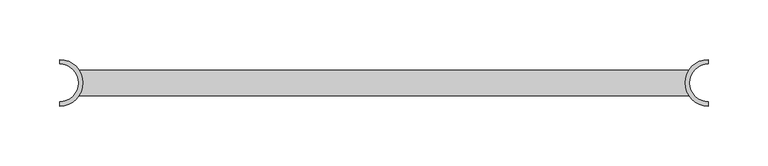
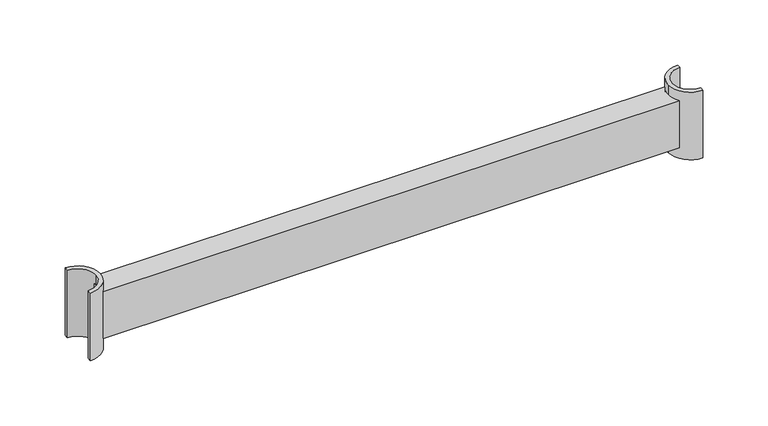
"""IFC4 building model written with IfcOpenShell, lengths in millimetres: furniture geometry."""

from ifc_helpers import new_model, si_unit, point, frame, frame_2d, origin, place, context, project, spatial, polyline, circle_curve, trimmed, segment, composite_curve, outline, extrude, source, transform, mapped, element, save


def furniture_4709d153(model_context):
    return source(origin(), model_context, "Body", "SweptSolid", [
        extrude(outline(polyline([(256.2225383, 10.6660156), (256.2225383, -10.6660156), (-256.0878417, -10.6660156), (-256.0878417, 10.6660156), (256.2225383, 10.6660156)])), frame((0.0, 0.0, 1154.1188846), z_axis=(0.0, 0.0, 1.0), x_axis=(1.0, 0.0, 0.0)), (0.0, 0.0, 1.0), 44.45),
        extrude(outline(composite_curve([segment(trimmed(circle_curve(frame_2d((-271.9628417, 0.0)), 15.875), [point((-256.0878417, 0.0))], [point((-271.9628417, 15.875))], True, "CARTESIAN"), True, "CONTINUOUS"), segment(polyline([(-271.9628417, 15.875), (-271.9628417, 19.54022)]), True, "CONTINUOUS"), segment(trimmed(circle_curve(frame_2d((-271.9628417, 0.0)), 19.54022), [point((-271.9628417, 19.54022))], [point((-252.4226217, 0.0))], False, "CARTESIAN"), True, "CONTINUOUS"), segment(trimmed(circle_curve(frame_2d((-271.9628417, 0.0)), 19.54022), [point((-252.4226217, 0.0))], [point((-271.9628417, -19.54022))], False, "CARTESIAN"), True, "CONTINUOUS"), segment(polyline([(-271.9628417, -19.54022), (-271.9628417, -15.875)]), True, "CONTINUOUS"), segment(trimmed(circle_curve(frame_2d((-271.9628417, 0.0)), 15.875), [point((-271.9628417, -15.875))], [point((-256.0878417, 0.0))], True, "CARTESIAN"), True, "CONTINUOUS")], self_intersect=False)), frame((0.0, 0.0, 1144.5938846), z_axis=(0.0, 0.0, 1.0), x_axis=(1.0, 0.0, 0.0)), (0.0, 0.0, 1.0), 63.5),
        extrude(outline(composite_curve([segment(trimmed(circle_curve(frame_2d((272.0975383, 0.0)), 19.54022), [point((252.5573183, 0.0))], [point((272.0975383, 19.54022))], False, "CARTESIAN"), True, "CONTINUOUS"), segment(polyline([(272.0975383, 19.54022), (272.0975383, 15.875)]), True, "CONTINUOUS"), segment(trimmed(circle_curve(frame_2d((272.0975383, 0.0)), 15.875), [point((272.0975383, 15.875))], [point((256.2225383, 0.0))], True, "CARTESIAN"), True, "CONTINUOUS"), segment(trimmed(circle_curve(frame_2d((272.0975383, 0.0)), 15.875), [point((256.2225383, 0.0))], [point((272.0975383, -15.875))], True, "CARTESIAN"), True, "CONTINUOUS"), segment(polyline([(272.0975383, -15.875), (272.0975383, -19.54022)]), True, "CONTINUOUS"), segment(trimmed(circle_curve(frame_2d((272.0975383, 0.0)), 19.54022), [point((272.0975383, -19.54022))], [point((252.5573183, 0.0))], False, "CARTESIAN"), True, "CONTINUOUS")], self_intersect=False)), frame((0.0, 0.0, 1144.5938846), z_axis=(0.0, 0.0, 1.0), x_axis=(1.0, 0.0, 0.0)), (0.0, 0.0, 1.0), 63.5),
    ])


if __name__ == "__main__":
    model = new_model("IFC4")
    model_context = context("Model", 3, world=origin())
    ifc_project = project(units=[si_unit("LENGTHUNIT", "METRE", prefix="MILLI")], contexts=[model_context])
    site = spatial("IfcSite", under=ifc_project)
    building = spatial("IfcBuilding", under=site)
    placement = place(None, origin())
    furniture_shape = furniture_4709d153(model_context)
    element("IfcFurniture", 1, ObjectType="HermanMiller_Carts_CT790_Above-CartRailSingle-WideCart : Add-On Rail For Carts 28\"W", at=placement, inside=building, context=model_context, shape_type="MappedRepresentation", body=[
        mapped(furniture_shape, transform((0.0, 0.0, 0.0), x_axis=(1.0, 0.0, 0.0), y_axis=(0.0, 1.0, 0.0), z_axis=(0.0, 0.0, 1.0))),
    ])
    save(model, "model.ifc")
